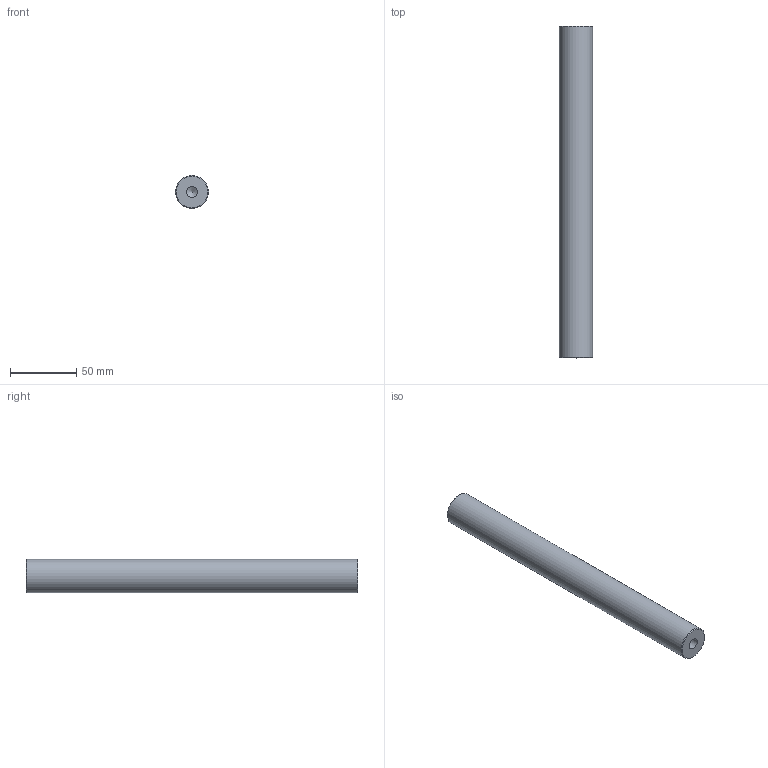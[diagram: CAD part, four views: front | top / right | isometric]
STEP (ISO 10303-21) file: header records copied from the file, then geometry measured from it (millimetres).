
FILE_DESCRIPTION(/* description */ (''),/* implementation_level */ '2;1');
FILE_NAME(/* name */ 'BM22-25D-250L.step',/* time_stamp */ '2023-10-24T14:14:33+09:00',/* author */ (''),/* organization */ (''),/* preprocessor_version */ 'ST-DEVELOPER v20',/* originating_system */ 'Autodesk Translation Framework v12.14.0.127',/* authorisation */ '');
FILE_SCHEMA (('AUTOMOTIVE_DESIGN { 1 0 10303 214 3 1 1 }'));
Length unit declared in the file: millimetre
Products named in the file (1): BM22-25D-250L
Bounding box: 25 x 250 x 25 mm (x, y, z)
Volume: 120888.8 mm3; surface area: 21392.6 mm2
Topology: 1 solids, 1 shells, 9 faces, 17 edges, 10 vertices
Faces by surface type: cone 4, cylinder 3, plane 2
Full cylindrical faces by diameter (mm): 8.526 x2, 25 x1
Entity records: 257 total; most frequent: DIRECTION 43, CARTESIAN_POINT 35, ORIENTED_EDGE 30, AXIS2_PLACEMENT_3D 18, EDGE_CURVE 15, EDGE_LOOP 11, VERTEX_POINT 10, FACE_OUTER_BOUND 9
